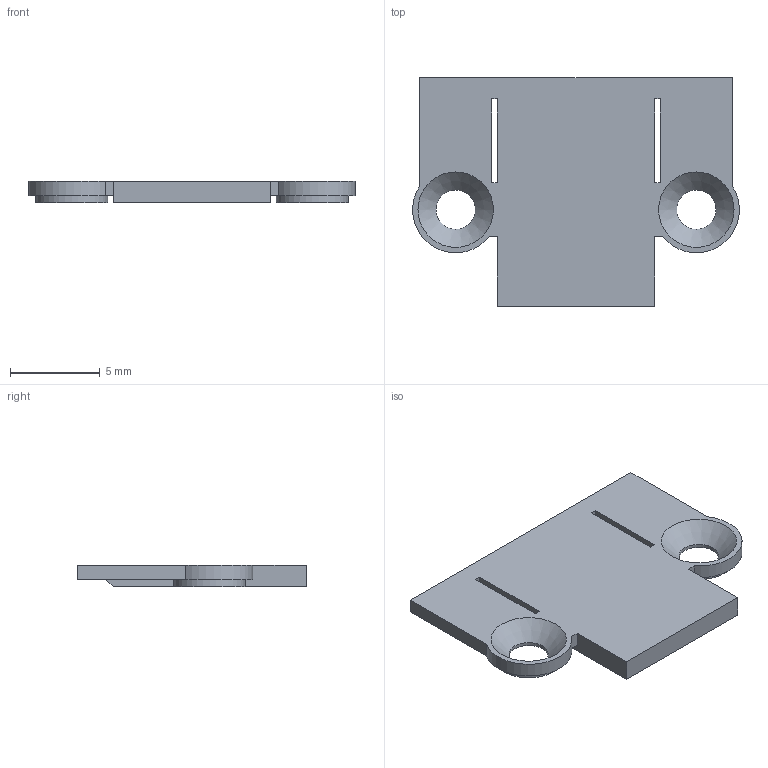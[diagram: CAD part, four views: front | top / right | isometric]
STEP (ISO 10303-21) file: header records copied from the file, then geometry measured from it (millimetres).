
FILE_DESCRIPTION(('Open CASCADE Model'),'2;1');
FILE_NAME('Open CASCADE Shape Model','2026-10-12T19:49:22',('Author'),( 'Open CASCADE'),'Open CASCADE STEP processor 7.9','Open CASCADE 7.9' ,'Unknown');
FILE_SCHEMA(('AUTOMOTIVE_DESIGN { 1 0 10303 214 1 1 1 1 }'));
Length unit declared in the file: millimetre
Products named in the file (1): Open CASCADE STEP translator 7.9 4
Bounding box: 18.19 x 12.73 x 1.2 mm (x, y, z)
Volume: 182.5 mm3; surface area: 471.9 mm2
Topology: 1 solids, 1 shells, 31 faces, 83 edges, 54 vertices
Faces by surface type: plane 23, cylinder 6, cone 2
Full cylindrical faces by diameter (mm): 2.2 x2, 4 x2
Entity records: 2069 total; most frequent: CARTESIAN_POINT 357, DIRECTION 320, LINE 219, VECTOR 219, ORIENTED_EDGE 166, PCURVE 166, DEFINITIONAL_REPRESENTATION 166, EDGE_CURVE 83
